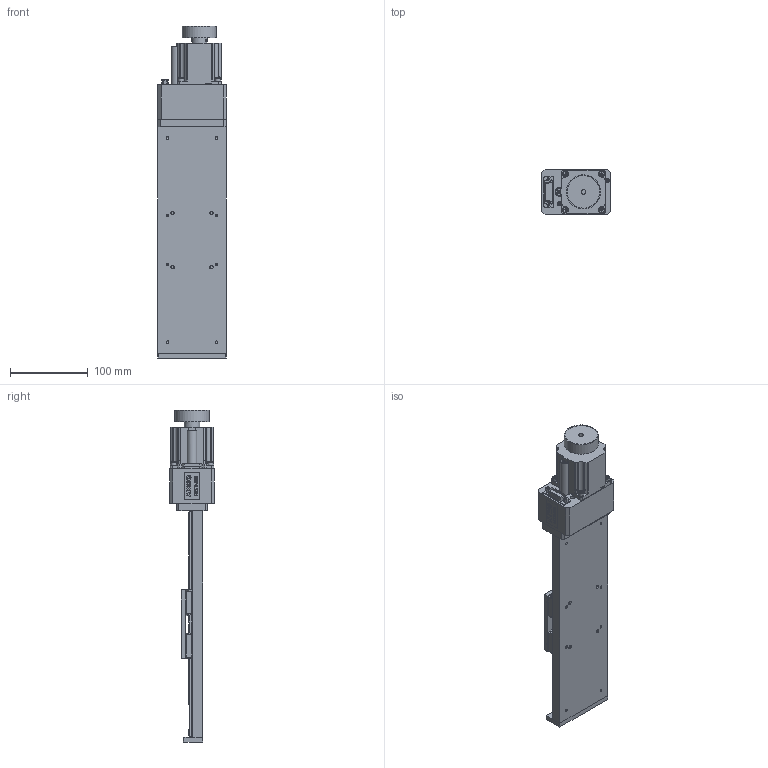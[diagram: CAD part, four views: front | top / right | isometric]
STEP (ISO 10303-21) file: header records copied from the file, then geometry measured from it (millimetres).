
FILE_DESCRIPTION((''),'2;1');
FILE_NAME('C:\Axmo\Axmo autodesk\Designs\Standard\1437 mnt9\MNT9-200.stp','2011-09-13T16:05:39',('AXMOBE'),(''),'Autodesk Inventor 2011','Autodesk Inventor 2011','');
FILE_SCHEMA(('AUTOMOTIVE_DESIGN { 1 2 10303 214 0 1 1 1 }'));
Length unit declared in the file: millimetre
Products named in the file (1): 1437 00 ENS 000-200_Enveloppe_1
Bounding box: 88.1 x 58 x 428 mm (x, y, z)
Volume: 787418.7 mm3; surface area: 182626.4 mm2
Topology: 1 solids, 152 shells, 2547 faces, 6011 edges, 3875 vertices
Faces by surface type: plane 1545, cylinder 532, cone 199, torus 159, bspline 96, sphere 16
Full cylindrical faces by diameter (mm): 1 x10, 1.5 x16, 1.567 x4, 1.754 x4, 2 x4, 2.013 x8, 2.1 x2, 2.25 x4, 2.459 x63, 2.5 x2, 2.8 x1, 3 x61, 3.1 x4, 3.242 x21, 3.5 x51, 4 x4, 4.5 x5, 5 x6, 5.5 x53, 5.7 x2, 6 x49, 6.2 x1, 6.35 x3, 6.459 x2, 7 x8, 7.5 x4, 8 x2, 9 x1, 10 x1, 10.84 x4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
Entity records: 70627 total; most frequent: CARTESIAN_POINT 15477, DIRECTION 10532, ORIENTED_EDGE 9814, EDGE_CURVE 4907, AXIS2_PLACEMENT_3D 3864, EDGE_LOOP 3645, VERTEX_POINT 3530, VECTOR 2804
